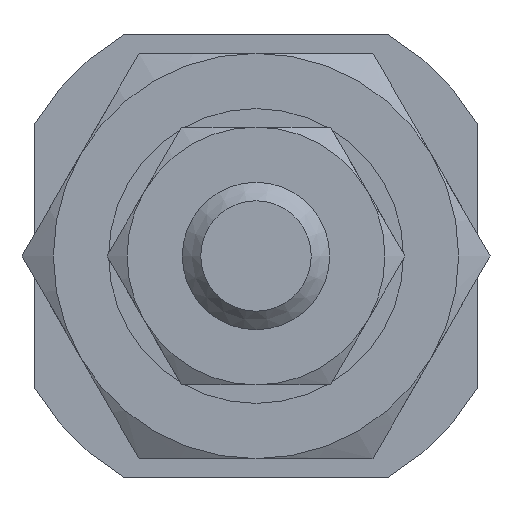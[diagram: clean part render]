
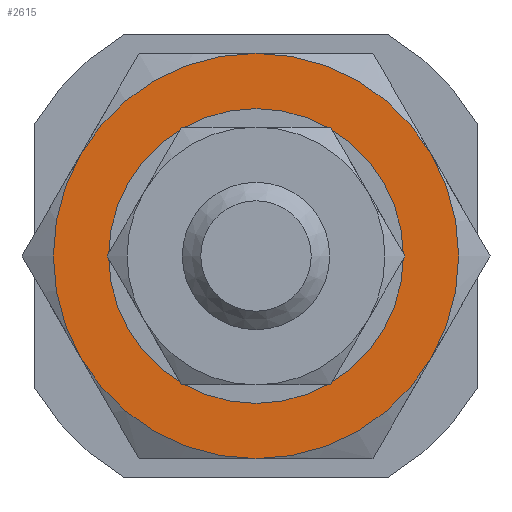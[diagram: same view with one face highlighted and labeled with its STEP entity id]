
A CAD part, left-side view. The second image highlights one B-rep face of the part: STEP entity #2615.
In plain terms, the highlighted planar face has unit normal (-1, 0, 0).
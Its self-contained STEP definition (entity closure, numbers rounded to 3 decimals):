
#844=CARTESIAN_POINT('',(-80.899,4.763,-2.75));
#845=VERTEX_POINT('',#844);
#861=CARTESIAN_POINT('',(-80.899,4.763,2.75));
#862=VERTEX_POINT('',#861);
#863=CARTESIAN_POINT('',(-80.899,0.,0.0));
#864=DIRECTION('',(-1.0,0.0,0.0));
#865=DIRECTION('',(0.0,-1.0,0.0));
#866=AXIS2_PLACEMENT_3D('',#863,#864,#865);
#867=CIRCLE('',#866,5.5);
#868=EDGE_CURVE('',#862,#845,#867,.T.);
#893=CARTESIAN_POINT('',(-80.899,0.,5.5));
#894=VERTEX_POINT('',#893);
#921=CARTESIAN_POINT('',(-80.899,0.,0.0));
#922=DIRECTION('',(-1.0,0.0,0.0));
#923=DIRECTION('',(0.0,-1.0,0.0));
#924=AXIS2_PLACEMENT_3D('',#921,#922,#923);
#925=CIRCLE('',#924,5.5);
#926=EDGE_CURVE('',#894,#862,#925,.T.);
#936=CARTESIAN_POINT('',(-80.899,0.,-5.5));
#937=VERTEX_POINT('',#936);
#953=CARTESIAN_POINT('',(-80.899,0.,0.0));
#954=DIRECTION('',(-1.0,0.0,0.0));
#955=DIRECTION('',(0.0,-1.0,0.0));
#956=AXIS2_PLACEMENT_3D('',#953,#954,#955);
#957=CIRCLE('',#956,5.5);
#958=EDGE_CURVE('',#845,#937,#957,.T.);
#983=CARTESIAN_POINT('',(-80.899,-4.763,2.75));
#984=VERTEX_POINT('',#983);
#1011=CARTESIAN_POINT('',(-80.899,0.,0.0));
#1012=DIRECTION('',(-1.0,0.0,0.0));
#1013=DIRECTION('',(0.0,-1.0,0.0));
#1014=AXIS2_PLACEMENT_3D('',#1011,#1012,#1013);
#1015=CIRCLE('',#1014,5.5);
#1016=EDGE_CURVE('',#984,#894,#1015,.T.);
#1026=CARTESIAN_POINT('',(-80.899,-4.763,-2.75));
#1027=VERTEX_POINT('',#1026);
#1043=CARTESIAN_POINT('',(-80.899,0.,0.0));
#1044=DIRECTION('',(-1.0,0.0,0.0));
#1045=DIRECTION('',(0.0,-1.0,0.0));
#1046=AXIS2_PLACEMENT_3D('',#1043,#1044,#1045);
#1047=CIRCLE('',#1046,5.5);
#1048=EDGE_CURVE('',#937,#1027,#1047,.T.);
#1086=CARTESIAN_POINT('',(-80.899,0.,0.0));
#1087=DIRECTION('',(-1.0,0.0,0.0));
#1088=DIRECTION('',(0.0,-1.0,0.0));
#1089=AXIS2_PLACEMENT_3D('',#1086,#1087,#1088);
#1090=CIRCLE('',#1089,5.5);
#1091=EDGE_CURVE('',#1027,#984,#1090,.T.);
#2591=CARTESIAN_POINT('',(-80.899,5.75,0.0));
#2592=DIRECTION('',(-1.0,0.0,0.0));
#2593=DIRECTION('',(0.0,0.0,1.0));
#2594=AXIS2_PLACEMENT_3D('',#2591,#2592,#2593);
#2595=PLANE('',#2594);
#2596=ORIENTED_EDGE('',*,*,#868,.T.);
#2597=ORIENTED_EDGE('',*,*,#958,.T.);
#2598=ORIENTED_EDGE('',*,*,#1048,.T.);
#2599=ORIENTED_EDGE('',*,*,#1091,.T.);
#2600=ORIENTED_EDGE('',*,*,#1016,.T.);
#2601=ORIENTED_EDGE('',*,*,#926,.T.);
#2602=EDGE_LOOP('',(#2596,#2597,#2598,#2599,#2600,#2601));
#2603=FACE_OUTER_BOUND('',#2602,.T.);
#2604=CARTESIAN_POINT('',(-80.899,4.,0.0));
#2605=VERTEX_POINT('',#2604);
#2606=CARTESIAN_POINT('',(-80.899,0.,0.0));
#2607=DIRECTION('',(-1.0,0.0,0.0));
#2608=DIRECTION('',(0.0,1.0,0.0));
#2609=AXIS2_PLACEMENT_3D('',#2606,#2607,#2608);
#2610=CIRCLE('',#2609,4.);
#2611=EDGE_CURVE('',#2605,#2605,#2610,.T.);
#2612=ORIENTED_EDGE('',*,*,#2611,.F.);
#2613=EDGE_LOOP('',(#2612));
#2614=FACE_BOUND('',#2613,.T.);
#2615=ADVANCED_FACE('',(#2603,#2614),#2595,.T.);
